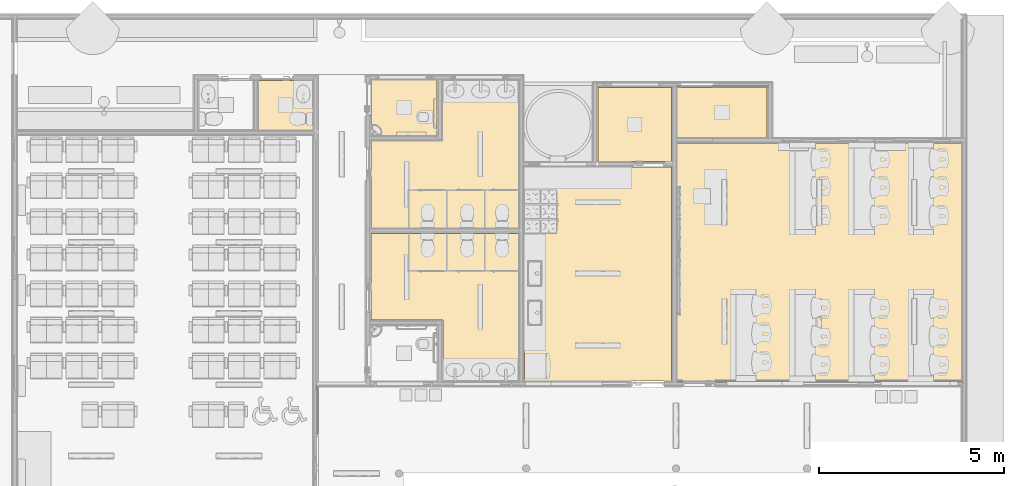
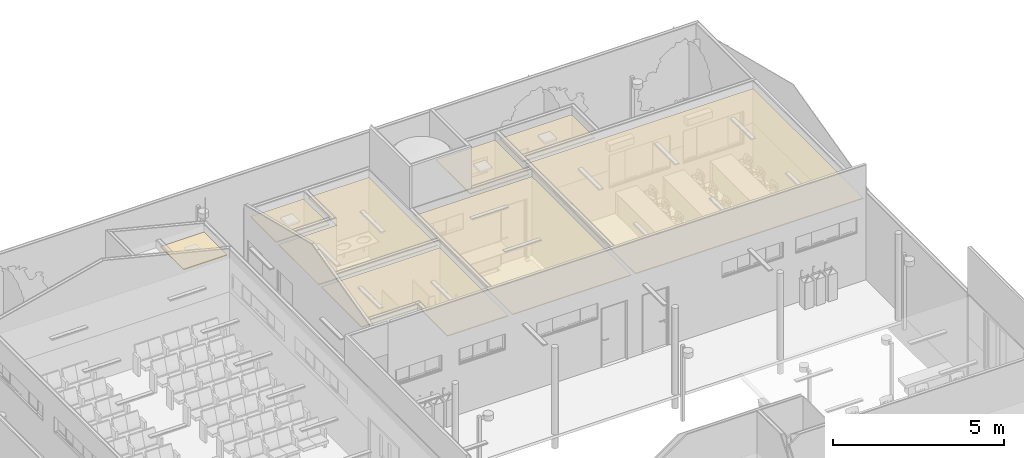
# One storey, part 50 of 155: 8 coverings.
"""IFC2X3 building model written with IfcOpenShell, lengths in metres."""

from ifc_helpers import new_model, entity, si_unit, converted_unit, derived_unit, direction, frame, frame_2d, origin, place, context, subcontext, project, spatial, polyline, rectangle, outline, extrude, material, layer, layer_set, layer_usage, element, save


model = new_model("IFC2X3")

# Units and contexts
model_context = context("Model", 3, precision=1e-05, world=origin(), true_north=direction((6.12303176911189e-17, 1.0)))
body_context = subcontext(model_context, "Body", "Model", "MODEL_VIEW")
ifc_project = project(units=[si_unit("LENGTHUNIT", "METRE"), si_unit("AREAUNIT", "SQUARE_METRE"), si_unit("VOLUMEUNIT", "CUBIC_METRE"), converted_unit("PLANEANGLEUNIT", "DEGREE", entity("IfcRatioMeasure", 0.0174532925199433), si_unit("PLANEANGLEUNIT", "RADIAN"), dimensions=[0, 0, 0, 0, 0, 0, 0]), si_unit("MASSUNIT", "GRAM", prefix="KILO"), derived_unit("MASSDENSITYUNIT", [(si_unit("MASSUNIT", "GRAM", prefix="KILO"), 1), (si_unit("LENGTHUNIT", "METRE"), -3)]), si_unit("TIMEUNIT", "SECOND"), si_unit("FREQUENCYUNIT", "HERTZ"), si_unit("THERMODYNAMICTEMPERATUREUNIT", "DEGREE_CELSIUS"), derived_unit("THERMALTRANSMITTANCEUNIT", [(si_unit("MASSUNIT", "GRAM", prefix="KILO"), 1), (si_unit("THERMODYNAMICTEMPERATUREUNIT", "KELVIN"), -1), (si_unit("TIMEUNIT", "SECOND"), -3)]), derived_unit("VOLUMETRICFLOWRATEUNIT", [(si_unit("LENGTHUNIT", "METRE"), 3), (si_unit("TIMEUNIT", "SECOND"), -1)]), si_unit("ELECTRICCURRENTUNIT", "AMPERE"), si_unit("ELECTRICVOLTAGEUNIT", "VOLT"), si_unit("POWERUNIT", "WATT"), si_unit("FORCEUNIT", "NEWTON", prefix="KILO"), si_unit("ILLUMINANCEUNIT", "LUX"), si_unit("LUMINOUSFLUXUNIT", "LUMEN"), si_unit("LUMINOUSINTENSITYUNIT", "CANDELA"), derived_unit("USERDEFINED", [(si_unit("MASSUNIT", "GRAM", prefix="KILO"), -1), (si_unit("LENGTHUNIT", "METRE"), -2), (si_unit("TIMEUNIT", "SECOND"), 3), (si_unit("LUMINOUSFLUXUNIT", "LUMEN"), 1)]), derived_unit("LINEARVELOCITYUNIT", [(si_unit("LENGTHUNIT", "METRE"), 1), (si_unit("TIMEUNIT", "SECOND"), -1)]), si_unit("PRESSUREUNIT", "PASCAL"), derived_unit("USERDEFINED", [(si_unit("LENGTHUNIT", "METRE"), -2), (si_unit("MASSUNIT", "GRAM", prefix="KILO"), 1), (si_unit("TIMEUNIT", "SECOND"), -2)])], contexts=[model_context])

# Site, building, storey, space
site_placement = place(None, frame((26.9889013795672, -17.5624287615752, 0.0)))
site = spatial("IfcSite", under=ifc_project, at=site_placement, Name="Default", CompositionType="ELEMENT")
building_placement = place(site_placement, origin())
building = spatial("IfcBuilding", under=site, at=building_placement, Name="C. C. L. Monsenhor Antônio Sampaio", CompositionType="ELEMENT")
storey_placement = place(building_placement, frame((0.0, 0.0, 1.19999999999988)))
storey = spatial("IfcBuildingStorey", under=building, at=storey_placement, Name="Nível 1.2", CompositionType="ELEMENT", Elevation=1.19999999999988)
space_1_placement = place(storey_placement, origin())
space_1 = spatial("IfcSpace", under=storey, at=space_1_placement, Name="89", CompositionType="ELEMENT", InteriorOrExteriorSpace="INTERNAL")

# Covering
ifc_material_1 = material(Name=".Forro em gesso")
ifc_layer_1 = layer(ifc_material_1, 0.03)
ifc_layer_set_1 = layer_set([ifc_layer_1], Name="Forro composto:Forro Mineral")
ifc_layer_usage_1 = layer_usage(ifc_layer_set_1, "AXIS3", "POSITIVE", 0.0)
covering_1_placement = place(space_1_placement, origin())
element("IfcCovering", 1, at=covering_1_placement, inside=space_1, material=ifc_layer_usage_1, Name="Forro composto:Forro Mineral", ObjectType="Forro composto:Forro Mineral", PredefinedType="CEILING", context=body_context, shape_type="SweptSolid", body=[
    extrude(rectangle(XDim=6.45000000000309, YDim=7.69983173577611, at=frame_2d((1.11022302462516e-15, 0.0), x_axis=(1.0, 0.0))), frame((7.7295318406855, -13.5280663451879, 2.8), z_axis=(0.0, 0.0, 1.0), x_axis=(0.0, 1.0, 0.0)), (0.0, 0.0, 1.0), 0.0300000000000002),
])

# Space
space_2_placement = place(storey_placement, origin())
space_2 = spatial("IfcSpace", under=storey, at=space_2_placement, Name="90", CompositionType="ELEMENT", InteriorOrExteriorSpace="INTERNAL")

# Covering
ifc_material_2 = material(Name=".Placa de Gesso Pintada de Branco")
ifc_layer_2 = layer(ifc_material_2, 0.03)
ifc_layer_set_2 = layer_set([ifc_layer_2], Name="Forro composto:Forro de Gesso")
ifc_layer_usage_2 = layer_usage(ifc_layer_set_2, "AXIS3", "POSITIVE", 0.0)
covering_2_placement = place(space_2_placement, origin())
element("IfcCovering", 2, at=covering_2_placement, inside=space_2, material=ifc_layer_usage_2, Name="Forro composto:Forro de Gesso", ObjectType="Forro composto:Forro de Gesso", PredefinedType="CEILING", context=body_context, shape_type="SweptSolid", body=[
    extrude(rectangle(XDim=5.80000000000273, YDim=4.00016826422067, at=frame_2d((-1.11022302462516e-15, 0.0), x_axis=(1.0, 0.0))), frame((1.72953184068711, -13.853066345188, 2.8), z_axis=(0.0, 0.0, 1.0), x_axis=(0.0, -1.0, 0.0)), (0.0, 0.0, 1.0), 0.0300000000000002),
])

# Space
space_3_placement = place(storey_placement, origin())
space_3 = spatial("IfcSpace", under=storey, at=space_3_placement, Name="91", CompositionType="ELEMENT", InteriorOrExteriorSpace="INTERNAL")

# Covering
ifc_layer_usage_3 = layer_usage(ifc_layer_set_2, "AXIS3", "POSITIVE", 0.0)
covering_3_placement = place(space_3_placement, origin())
element("IfcCovering", 3, at=covering_3_placement, inside=space_3, material=ifc_layer_usage_3, Name="Forro composto:Forro de Gesso", ObjectType="Forro composto:Forro de Gesso", PredefinedType="CEILING", context=body_context, shape_type="SweptSolid", body=[
    extrude(rectangle(XDim=2.00000000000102, YDim=2.00016826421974, at=frame_2d((1.11022302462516e-15, 1.11022302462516e-16), x_axis=(1.0, 0.0))), frame((2.72953184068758, -9.80306634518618, 2.8), z_axis=(0.0, 0.0, 1.0), x_axis=(0.0, 1.0, 0.0)), (0.0, 0.0, 1.0), 0.0300000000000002),
])

# Space
space_4_placement = place(storey_placement, origin())
space_4 = spatial("IfcSpace", under=storey, at=space_4_placement, Name="92", CompositionType="ELEMENT", InteriorOrExteriorSpace="INTERNAL")

# Covering
ifc_layer_usage_4 = layer_usage(ifc_layer_set_2, "AXIS3", "POSITIVE", 0.0)
covering_4_placement = place(space_4_placement, origin())
element("IfcCovering", 4, at=covering_4_placement, inside=space_4, material=ifc_layer_usage_4, Name="Forro composto:Forro de Gesso", ObjectType="Forro composto:Forro de Gesso", PredefinedType="CEILING", context=body_context, shape_type="SweptSolid", body=[
    extrude(outline(polyline([(-0.233775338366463, -1.98278824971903), (2.11622466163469, -1.98278824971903), (2.11622466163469, 2.01721175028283), (-1.88244932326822, 2.01721175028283), (-1.88244932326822, -0.0344235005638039), (-0.23377533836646, -0.0344235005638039), (-0.233775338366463, -1.98278824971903)])), frame((-2.43776404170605, -10.4868416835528, 2.8), z_axis=(0.0, 0.0, 1.0), x_axis=(0.0, -1.0, 0.0)), (0.0, 0.0, 1.0), 0.0300000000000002),
])

# Space
space_5_placement = place(storey_placement, origin())
space_5 = spatial("IfcSpace", under=storey, at=space_5_placement, Name="95", CompositionType="ELEMENT", InteriorOrExteriorSpace="INTERNAL")

# Covering
ifc_layer_usage_5 = layer_usage(ifc_layer_set_2, "AXIS3", "POSITIVE", 0.0)
covering_5_placement = place(space_5_placement, origin())
element("IfcCovering", 5, at=covering_5_placement, inside=space_5, material=ifc_layer_usage_5, Name="Forro composto:Forro de Gesso", ObjectType="Forro composto:Forro de Gesso", PredefinedType="CEILING", context=body_context, shape_type="SweptSolid", body=[
    extrude(rectangle(XDim=1.49867398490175, YDim=1.79836474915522, at=frame_2d((-5.55111512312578e-16, 0.0), x_axis=(1.0, 0.0))), frame((-3.52136991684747, -9.35372935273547, 2.8), z_axis=(0.0, 0.0, 1.0), x_axis=(0.0, -1.0, 0.0)), (0.0, 0.0, 1.0), 0.0300000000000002),
])

# Space
space_6_placement = place(storey_placement, origin())
space_6 = spatial("IfcSpace", under=storey, at=space_6_placement, Name="93", CompositionType="ELEMENT", InteriorOrExteriorSpace="INTERNAL")

# Covering
ifc_layer_usage_6 = layer_usage(ifc_layer_set_2, "AXIS3", "POSITIVE", 0.0)
covering_6_placement = place(space_6_placement, origin())
element("IfcCovering", 6, at=covering_6_placement, inside=space_6, material=ifc_layer_usage_6, Name="Forro composto:Forro de Gesso", ObjectType="Forro composto:Forro de Gesso", PredefinedType="CEILING", context=body_context, shape_type="SweptSolid", body=[
    extrude(outline(polyline([(-1.88333333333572, -2.01666487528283), (2.11666666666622, -2.01666487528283), (2.11666666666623, 1.98333512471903), (-0.233333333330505, 1.98333512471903), (-0.233333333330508, 0.0333297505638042), (-1.88333333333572, 0.0333297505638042), (-1.88333333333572, -2.01666487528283)])), frame((-2.43721716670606, -14.8697330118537, 2.8), z_axis=(0.0, 0.0, 1.0), x_axis=(0.0, 1.0, 0.0)), (0.0, 0.0, 1.0), 0.0300000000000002),
])

# Space
space_7_placement = place(storey_placement, origin())
space_7 = spatial("IfcSpace", under=storey, at=space_7_placement, Name="99", CompositionType="ELEMENT", InteriorOrExteriorSpace="INTERNAL")

# Covering
ifc_layer_usage_7 = layer_usage(ifc_layer_set_2, "AXIS3", "POSITIVE", 0.0)
covering_7_placement = place(space_7_placement, origin())
element("IfcCovering", 7, at=covering_7_placement, inside=space_7, material=ifc_layer_usage_7, Name="Forro composto:Forro de Gesso", ObjectType="Forro composto:Forro de Gesso", PredefinedType="CEILING", context=body_context, shape_type="SweptSolid", body=[
    extrude(rectangle(XDim=1.34617398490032, YDim=1.47, at=frame_2d((0.0, 5.55111512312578e-16), x_axis=(1.0, 0.0))), frame((-6.72555229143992, -9.27997935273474, 2.8), z_axis=(0.0, 0.0, 1.0), x_axis=(0.0, -1.0, 0.0)), (0.0, 0.0, 1.0), 0.0300000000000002),
])

# Space
space_8_placement = place(storey_placement, origin())
space_8 = spatial("IfcSpace", under=storey, at=space_8_placement, Name="110", CompositionType="ELEMENT", InteriorOrExteriorSpace="INTERNAL")

# Covering
ifc_layer_usage_8 = layer_usage(ifc_layer_set_2, "AXIS3", "POSITIVE", 0.0)
covering_8_placement = place(space_8_placement, origin())
element("IfcCovering", 8, at=covering_8_placement, inside=space_8, material=ifc_layer_usage_8, Name="Forro composto:Forro de Gesso", ObjectType="Forro composto:Forro de Gesso", PredefinedType="CEILING", context=body_context, shape_type="SweptSolid", body=[
    extrude(rectangle(XDim=2.43983173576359, YDim=1.35000000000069, at=frame_2d((3.33066907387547e-16, -5.55111512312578e-16), x_axis=(1.0, 0.0))), frame((5.09953184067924, -9.47806634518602, 2.8)), (0.0, 0.0, 1.0), 0.0300000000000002),
])

save(model, "model.ifc")
